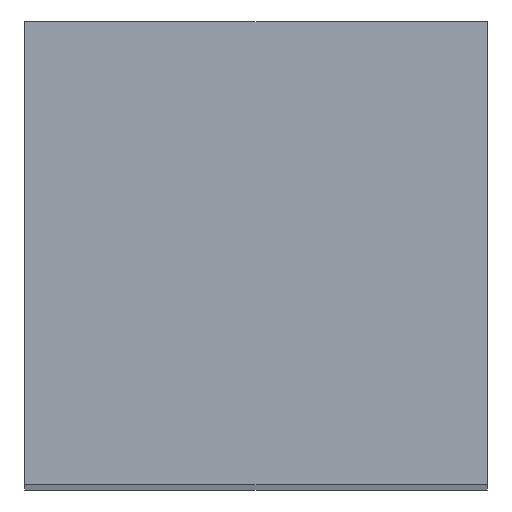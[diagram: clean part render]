
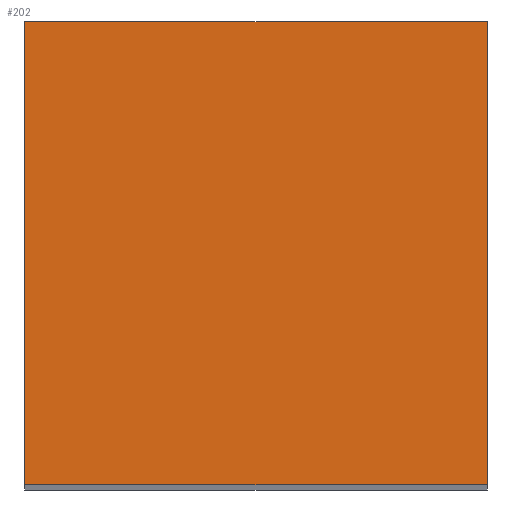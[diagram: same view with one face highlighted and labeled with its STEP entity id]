
A CAD part, top view. The second image highlights one B-rep face of the part: STEP entity #202.
In plain terms, the highlighted planar face has unit normal (0, 0, 1).
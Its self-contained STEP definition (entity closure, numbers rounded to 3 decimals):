
#40=FACE_OUTER_BOUND('',#54,.T.);
#54=EDGE_LOOP('',(#144,#145,#146,#147));
#72=LINE('',#318,#88);
#73=LINE('',#320,#89);
#74=LINE('',#322,#90);
#75=LINE('',#323,#91);
#88=VECTOR('',#256,10.);
#89=VECTOR('',#257,10.);
#90=VECTOR('',#258,10.);
#91=VECTOR('',#259,10.);
#104=VERTEX_POINT('',#316);
#105=VERTEX_POINT('',#317);
#106=VERTEX_POINT('',#319);
#107=VERTEX_POINT('',#321);
#120=EDGE_CURVE('',#104,#105,#72,.T.);
#121=EDGE_CURVE('',#105,#106,#73,.T.);
#122=EDGE_CURVE('',#106,#107,#74,.T.);
#123=EDGE_CURVE('',#107,#104,#75,.T.);
#144=ORIENTED_EDGE('',*,*,#120,.T.);
#145=ORIENTED_EDGE('',*,*,#121,.T.);
#146=ORIENTED_EDGE('',*,*,#122,.T.);
#147=ORIENTED_EDGE('',*,*,#123,.T.);
#192=PLANE('',#230);
#202=ADVANCED_FACE('',(#40),#192,.T.);
#230=AXIS2_PLACEMENT_3D('',#315,#254,#255);
#254=DIRECTION('center_axis',(0.,0.,1.));
#255=DIRECTION('ref_axis',(1.,0.,0.));
#256=DIRECTION('',(1.,0.,0.));
#257=DIRECTION('',(0.,1.,0.));
#258=DIRECTION('',(-1.,0.,0.));
#259=DIRECTION('',(0.,-1.,0.));
#315=CARTESIAN_POINT('Origin',(100.,100.,1315.));
#316=CARTESIAN_POINT('',(0.,0.,1315.));
#317=CARTESIAN_POINT('',(200.,0.,1315.));
#318=CARTESIAN_POINT('',(200.,0.,1315.));
#319=CARTESIAN_POINT('',(200.,200.,1315.));
#320=CARTESIAN_POINT('',(200.,200.,1315.));
#321=CARTESIAN_POINT('',(0.,200.,1315.));
#322=CARTESIAN_POINT('',(0.,200.,1315.));
#323=CARTESIAN_POINT('',(0.,0.,1315.));
